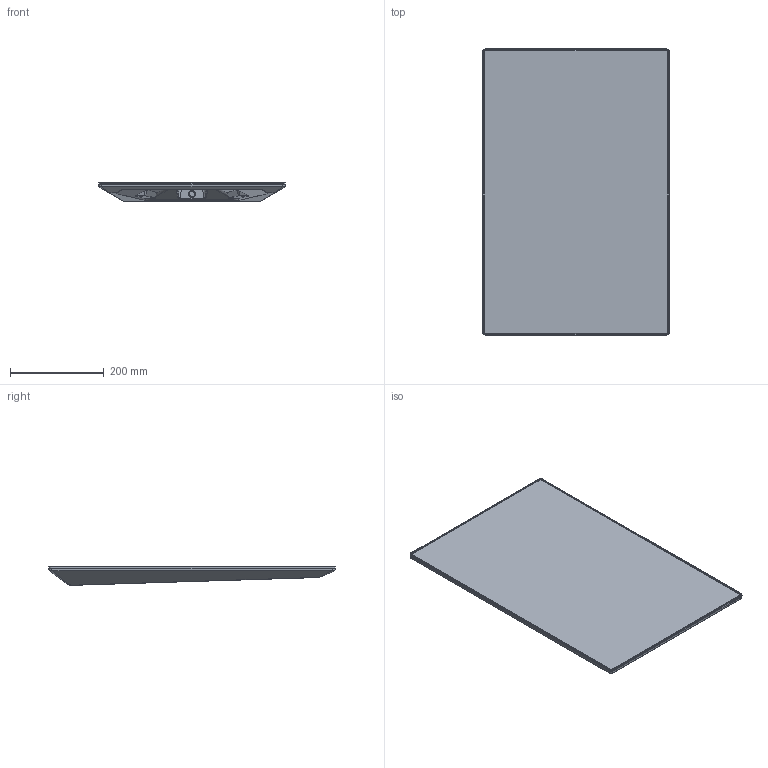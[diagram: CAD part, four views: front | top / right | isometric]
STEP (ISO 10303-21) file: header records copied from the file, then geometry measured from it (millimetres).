
FILE_DESCRIPTION(/* description */ (''),/* implementation_level */ '2;1');
FILE_NAME(/* name */ 'STARLINK_V4 Performance_Dish',/* time_stamp */ '2025-04-24T23:55:42-07:00',/* author */ (''),/* organization */ (''),/* preprocessor_version */ 'ST-DEVELOPER v19.2',/* originating_system */ 'Rhino 8.3',/* authorisation */ '');
FILE_SCHEMA (('CONFIG_CONTROL_DESIGN'));
Length unit declared in the file: millimetre
Products named in the file (1): Document
Bounding box: 398.22 x 610.08 x 39.81 mm (x, y, z)
Volume: 4928225 mm3; surface area: 1001851.3 mm2
Topology: 2 solids, 2 shells, 246 faces, 575 edges, 336 vertices
Faces by surface type: cylinder 99, bspline 93, plane 54
Entity records: 12224 total; most frequent: CARTESIAN_POINT 7576, ORIENTED_EDGE 1138, EDGE_CURVE 569, DIRECTION 515, VERTEX_POINT 336, AXIS2_PLACEMENT_3D 334, B_SPLINE_CURVE_WITH_KNOTS 324, EDGE_LOOP 255
